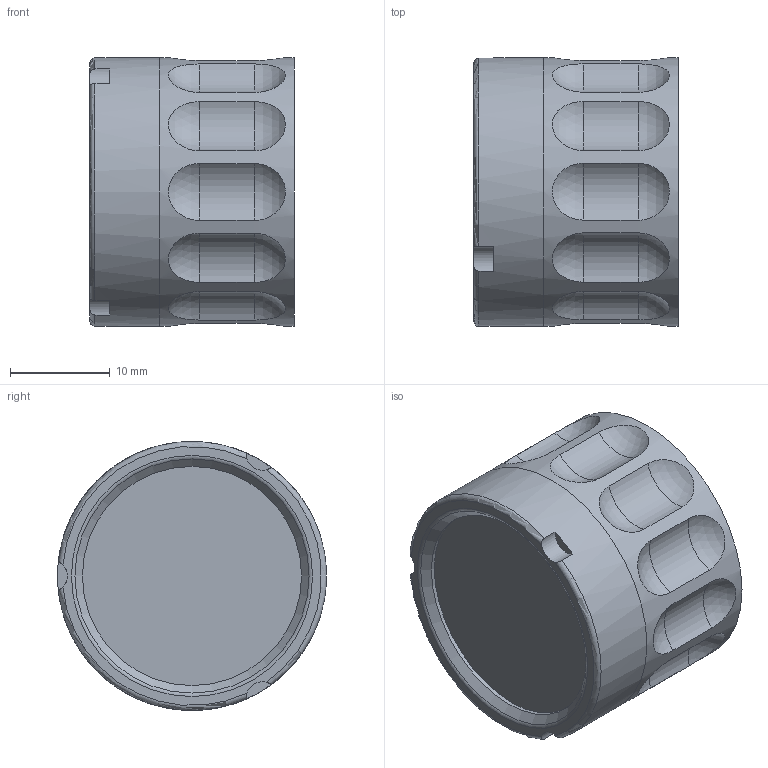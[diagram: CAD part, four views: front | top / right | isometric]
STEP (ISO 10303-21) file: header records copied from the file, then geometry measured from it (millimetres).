
FILE_DESCRIPTION(/* description */ ('ZB Objektiv-Schutzglocke, ø27 x 20,5'),/* implementation_level */ '2;1');
FILE_NAME(/* name */ 'KSM_275-20-0-23-00_ZB Objektiv-Schutzglocke 27 x 20,5.stp',/* time_stamp */ '2026-06-23T13:26:06+02:00',/* author */ ('khw'),/* organization */ ('TIS/ Germany'),/* preprocessor_version */ 'ST-DEVELOPER v20',/* originating_system */ 'Autodesk Inventor 2025',/* authorisation */ '6767,5 mm^3');
FILE_SCHEMA (('AUTOMOTIVE_DESIGN { 1 0 10303 214 3 1 1 }'));
Length unit declared in the file: millimetre
Products named in the file (1): KSM_275-20-0-23-00_ZB Objektiv-Schutzglocke ø27 x 2
0,5
Bounding box: 20.5 x 27 x 27 mm (x, y, z)
Volume: 4095.5 mm3; surface area: 4814.7 mm2
Topology: 2 solids, 2 shells, 61 faces, 127 edges, 84 vertices
Faces by surface type: sphere 24, cylinder 22, plane 10, torus 4, cone 1
Full cylindrical faces by diameter (mm): 21.19 x1, 22 x1, 23.8 x1, 24.4 x2, 27 x2
Entity records: 2204 total; most frequent: CARTESIAN_POINT 845, DIRECTION 275, ORIENTED_EDGE 254, EDGE_CURVE 127, AXIS2_PLACEMENT_3D 118, VERTEX_POINT 84, EDGE_LOOP 77, FACE_OUTER_BOUND 61
